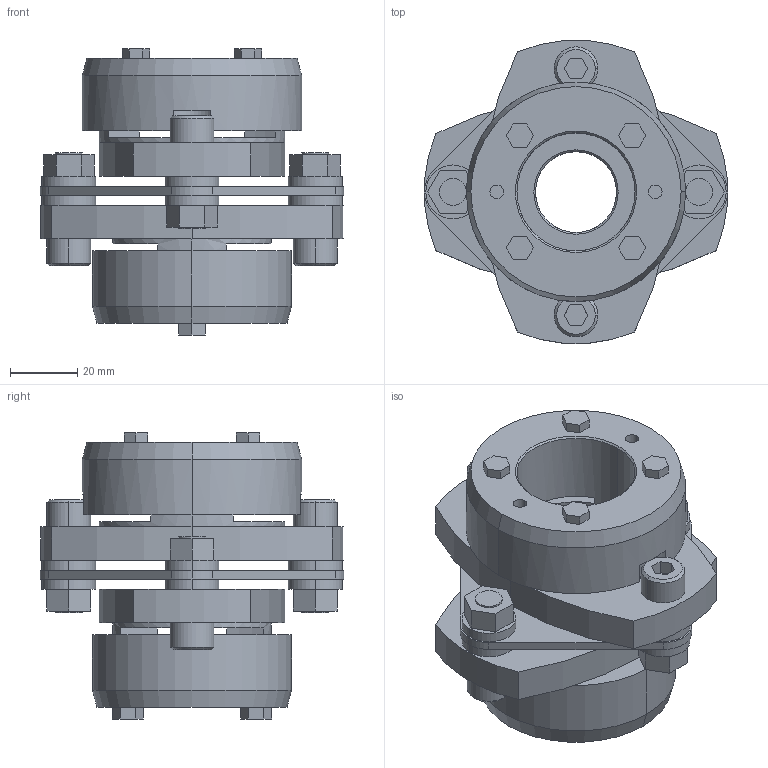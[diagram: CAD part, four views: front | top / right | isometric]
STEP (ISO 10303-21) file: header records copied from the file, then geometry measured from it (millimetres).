
FILE_DESCRIPTION((''),'2;1');
FILE_NAME('LCS-90T7-24×35.stp','2015-11-01T20:21:19',(''),(''),'AutoCAD STEP 2000i','AutoCAD 2000i',', , ');
FILE_SCHEMA(('CONFIG_CONTROL_DESIGN'));
Length unit declared in the file: millimetre
Products named in the file (12): LCS-90T7-25×35; 忣兜1; LC90T7-T035; LC90T7-T032; LC90T7-T030; LC90T7-T025-1; LC90T7-T025; LC90T7-T019-1; LC90T7-T019; LC90-B019-1; LC90-B019; LCS90-ITA
Assembly tree (11 placements, depth 2):
  LCS-90T7-25×35
    忣兜1
    LC90T7-T035
    LC90T7-T032
    LC90T7-T030
    LC90T7-T025-1
    LC90T7-T025
    LC90T7-T019-1
    LC90T7-T019
    LC90-B019-1
    LC90-B019
    LCS90-ITA
Bounding box: 90 x 89.94 x 84.8 mm (x, y, z)
Volume: 195123.3 mm3; surface area: 52534.7 mm2
Topology: 1 solids, 1 shells, 237 faces, 580 edges, 378 vertices
Faces by surface type: plane 135, cylinder 82, cone 20
Entity records: 7275 total; most frequent: DIRECTION 1282, CARTESIAN_POINT 1207, ORIENTED_EDGE 1160, EDGE_CURVE 580, AXIS2_PLACEMENT_3D 453, VERTEX_POINT 378, VECTOR 376, LINE 376
